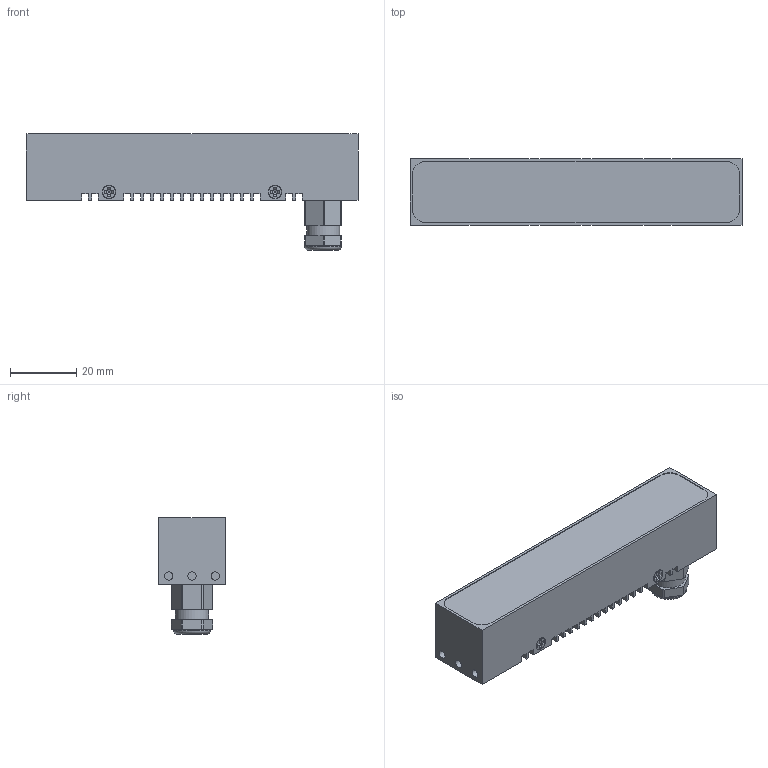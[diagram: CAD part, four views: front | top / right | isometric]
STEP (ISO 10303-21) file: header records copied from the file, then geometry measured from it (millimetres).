
FILE_DESCRIPTION( ( '' ), '1' );
FILE_NAME( 'L:/01_Produktserie LUMIMAX/LSB-Serie/LSB100/03_Konstruktion/LSB100 Download Katalog/LSB100.stp', '%{Zugriffsdatum}', ( 'Christian Koch' ), ( 'iiM AG' ), 'PSStep 13.0', 'Solid Edge', ' ' );
FILE_SCHEMA( ( 'AUTOMOTIVE_DESIGN { 1 0 10303 214 1 1 1 1 }' ) );
Length unit declared in the file: millimetre
Products named in the file (1): 1
Bounding box: 100 x 20 x 35 mm (x, y, z)
Volume: 38965.3 mm3; surface area: 11730.8 mm2
Topology: 1 solids, 11 shells, 351 faces, 913 edges, 601 vertices
Faces by surface type: plane 229, cylinder 95, cone 18, torus 5, bspline 4
Full cylindrical faces by diameter (mm): 1.454 x4, 1.567 x10, 2 x4, 2.2 x4, 2.459 x6, 5.5 x1, 10 x1, 11 x1
Entity records: 13104 total; most frequent: CARTESIAN_POINT 1968, DIRECTION 1694, ORIENTED_EDGE 1652, EDGE_CURVE 826, VERTEX_POINT 582, LINE 582, VECTOR 582, AXIS2_PLACEMENT_3D 556
